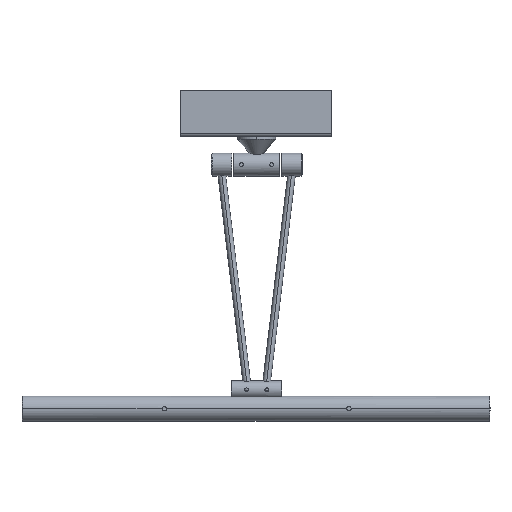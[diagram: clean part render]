
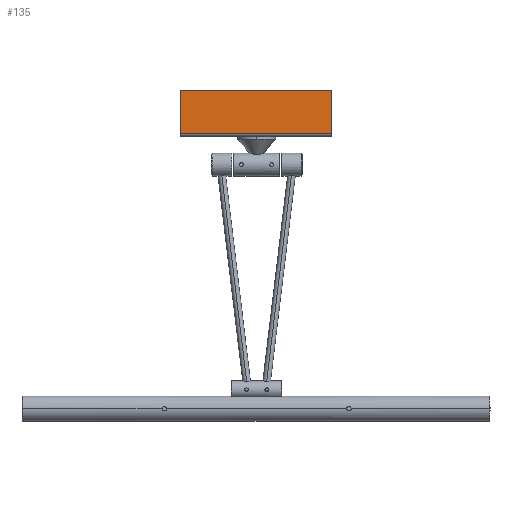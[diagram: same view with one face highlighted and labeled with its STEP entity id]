
A CAD part, top view. The second image highlights one B-rep face of the part: STEP entity #135.
In plain terms, the highlighted planar face has unit normal (0, 0, 1).
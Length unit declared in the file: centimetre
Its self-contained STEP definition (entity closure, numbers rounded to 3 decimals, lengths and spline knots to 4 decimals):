
#135=ADVANCED_FACE('',(#248),#1770,.T.);
#248=FACE_OUTER_BOUND('',#379,.T.);
#379=EDGE_LOOP('',(#893,#894,#895,#896));
#893=ORIENTED_EDGE('',*,*,#1219,.T.);
#894=ORIENTED_EDGE('',*,*,#1220,.T.);
#895=ORIENTED_EDGE('',*,*,#1215,.F.);
#896=ORIENTED_EDGE('',*,*,#1196,.F.);
#1196=EDGE_CURVE('',#1690,#1685,#1498,.T.);
#1215=EDGE_CURVE('',#1685,#1706,#1513,.T.);
#1219=EDGE_CURVE('',#1690,#1708,#1515,.T.);
#1220=EDGE_CURVE('',#1708,#1706,#1516,.T.);
#1498=B_SPLINE_CURVE_WITH_KNOTS('',1,(#3798,#3799),.UNSPECIFIED.,.F.,.F.,
(2,2),(-34.,0.),.UNSPECIFIED.);
#1513=B_SPLINE_CURVE_WITH_KNOTS('',1,(#3840,#3841),.UNSPECIFIED.,.F.,.F.,
(2,2),(-120.,0.),.UNSPECIFIED.);
#1515=B_SPLINE_CURVE_WITH_KNOTS('',1,(#3850,#3851),.UNSPECIFIED.,.F.,.F.,
(2,2),(-1.,119.),.UNSPECIFIED.);
#1516=B_SPLINE_CURVE_WITH_KNOTS('',1,(#3852,#3853),.UNSPECIFIED.,.F.,.F.,
(2,2),(-34.,0.),.UNSPECIFIED.);
#1685=VERTEX_POINT('',#3583);
#1690=VERTEX_POINT('',#3588);
#1706=VERTEX_POINT('',#3604);
#1708=VERTEX_POINT('',#3606);
#1770=PLANE('',#2020);
#2020=AXIS2_PLACEMENT_3D('',#3538,#2130,$);
#2130=DIRECTION('',(0.,0.,1.));
#3538=CARTESIAN_POINT('',(269.0341,422.5484,-243.5438));
#3583=CARTESIAN_POINT('',(269.0241,388.5384,-243.5438));
#3588=CARTESIAN_POINT('',(269.0241,422.5384,-243.5438));
#3604=CARTESIAN_POINT('',(149.0241,388.5384,-243.5438));
#3606=CARTESIAN_POINT('',(149.0241,422.5384,-243.5438));
#3798=CARTESIAN_POINT('',(269.0241,422.5384,-243.5438));
#3799=CARTESIAN_POINT('',(269.0241,388.5384,-243.5438));
#3840=CARTESIAN_POINT('',(269.0241,388.5384,-243.5438));
#3841=CARTESIAN_POINT('',(149.0241,388.5384,-243.5438));
#3850=CARTESIAN_POINT('',(269.0241,422.5384,-243.5438));
#3851=CARTESIAN_POINT('',(149.0241,422.5384,-243.5438));
#3852=CARTESIAN_POINT('',(149.0241,422.5384,-243.5438));
#3853=CARTESIAN_POINT('',(149.0241,388.5384,-243.5438));
